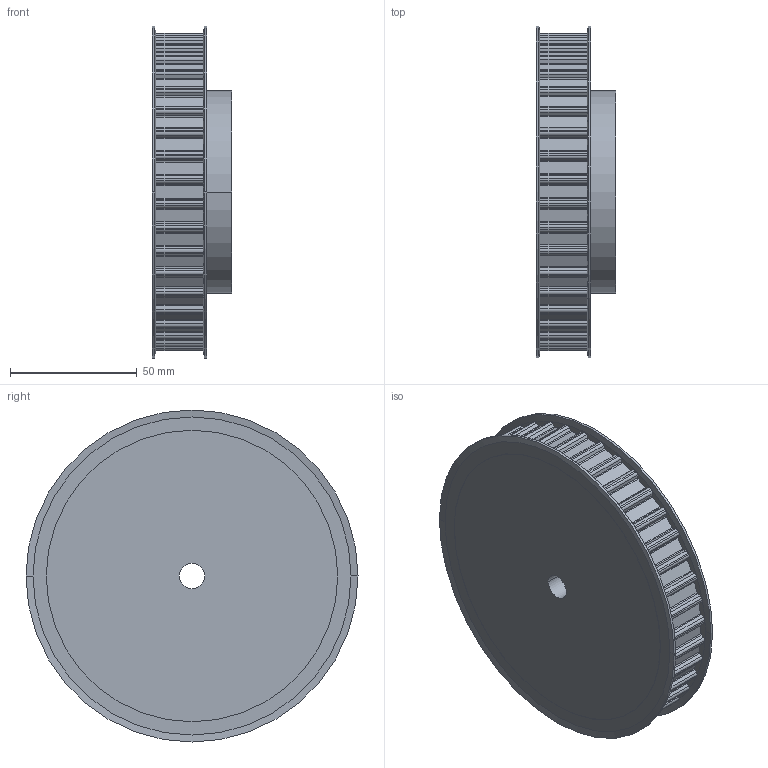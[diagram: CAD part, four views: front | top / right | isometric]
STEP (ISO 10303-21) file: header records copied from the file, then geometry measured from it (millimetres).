
FILE_DESCRIPTION( ( '' ), '1' );
FILE_NAME( 'C:/Users/Stangenbergd/Documents/CAD_Step/1/16824000.stp', '2021-10-19T09:44:24', ( '' ), ( '' ), ' ', ' ', ' ' );
FILE_SCHEMA( ( 'CONFIG_CONTROL_DESIGN' ) );
Length unit declared in the file: millimetre
Products named in the file (1): 1
Bounding box: 31.24 x 131 x 131 mm (x, y, z)
Volume: 297864.3 mm3; surface area: 43788.2 mm2
Topology: 1 solids, 1 shells, 425 faces, 1092 edges, 672 vertices
Faces by surface type: cylinder 212, plane 205, cone 8
Entity records: 12962 total; most frequent: DIRECTION 2456, CARTESIAN_POINT 2190, ORIENTED_EDGE 2184, EDGE_CURVE 1092, AXIS2_PLACEMENT_3D 938, VERTEX_POINT 672, LINE 580, VECTOR 580
